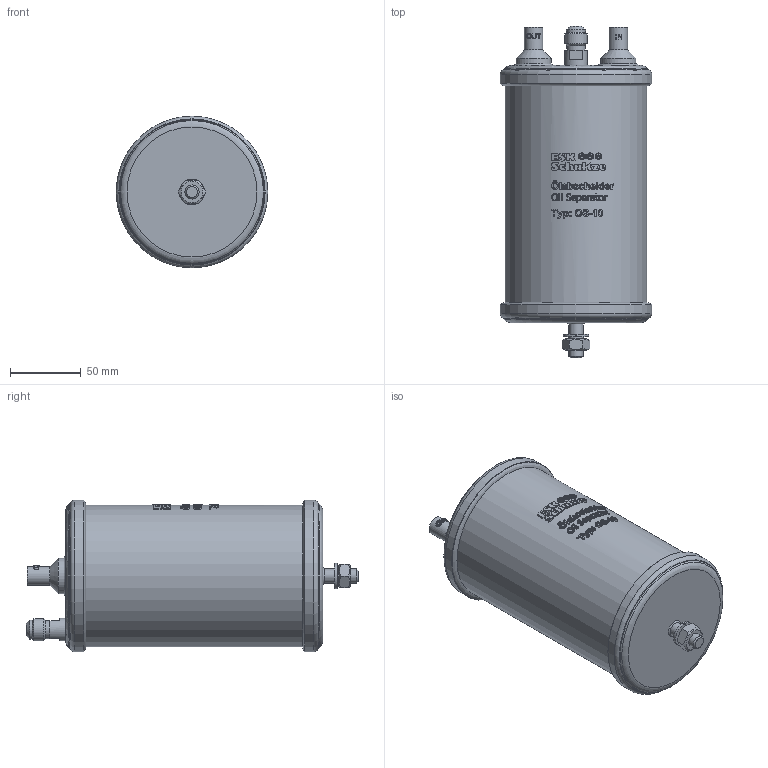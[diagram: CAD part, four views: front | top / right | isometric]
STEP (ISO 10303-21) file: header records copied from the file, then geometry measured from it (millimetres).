
FILE_DESCRIPTION(/* description */ (''),/* implementation_level */ '2;1');
FILE_NAME(/* name */ 'P:\OS\OS-10\OS-10.stp',/* time_stamp */ '2017-10-04T07:55:50+02:00',/* author */ ('neufeld'),/* organization */ (''),/* preprocessor_version */ 'ST-DEVELOPER v16.1',/* originating_system */ 'Autodesk Inventor 2016',/* authorisation */ '');
FILE_SCHEMA (('AUTOMOTIVE_DESIGN { 1 0 10303 214 3 1 1 }'));
Length unit declared in the file: millimetre
Products named in the file (2): OS-10; OS-10_1
Assembly tree (1 placements, depth 2):
  OS-10_1
    OS-10
Bounding box: 107.5 x 235.21 x 107.5 mm (x, y, z)
Volume: 1474618.9 mm3; surface area: 83194.5 mm2
Topology: 2 solids, 5 shells, 952 faces, 2553 edges, 1694 vertices
Faces by surface type: plane 499, bspline 330, cylinder 97, torus 15, cone 11
Full cylindrical faces by diameter (mm): 7.2 x1, 10 x2, 10.1 x2, 12.9 x1, 13.1 x2, 13.5 x1, 15.7 x1, 16 x1, 25 x2, 93.076 x1, 100 x1, 107.5 x2
Entity records: 35788 total; most frequent: CARTESIAN_POINT 13829, ORIENTED_EDGE 5004, DIRECTION 3724, EDGE_CURVE 2502, VERTEX_POINT 1684, AXIS2_PLACEMENT_3D 1274, LINE 1176, VECTOR 1176
